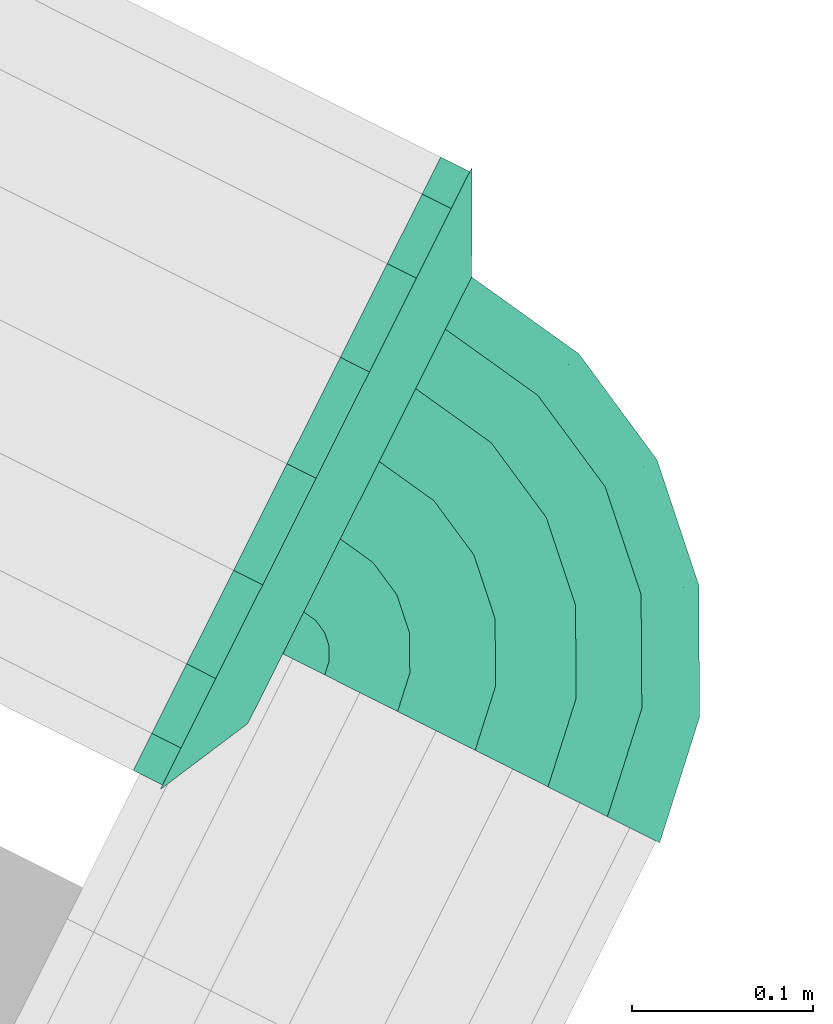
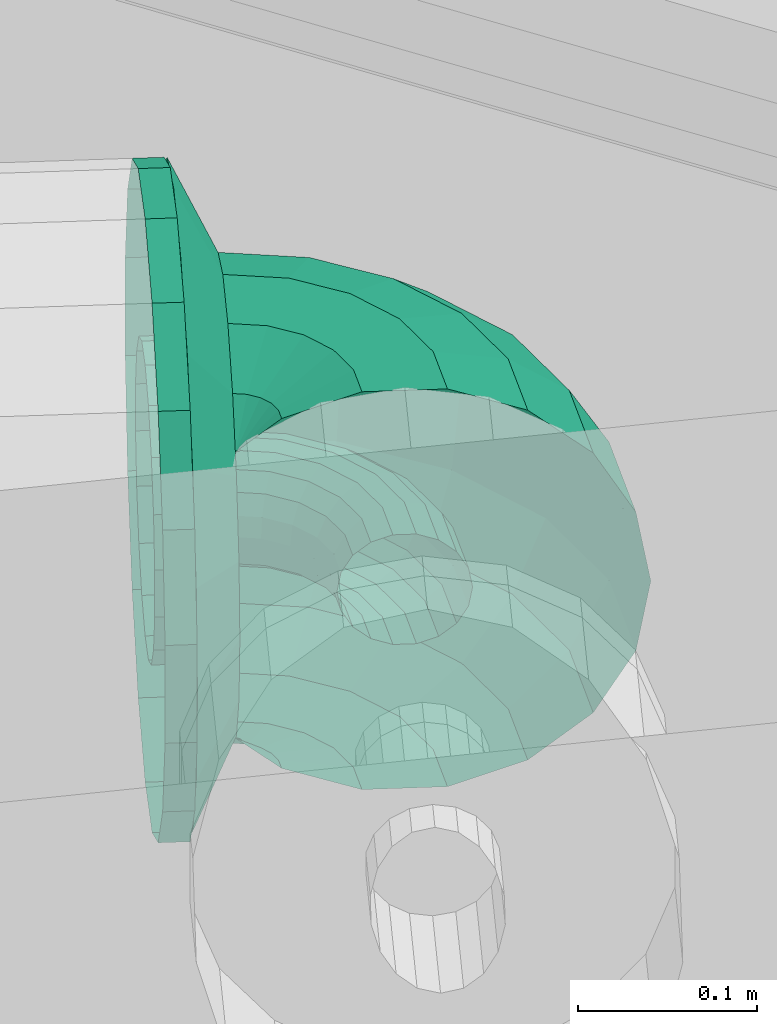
# One storey, part 158 of 206: 1 flow fitting, 1 flow segment.
"""IFC2X3 building model written with IfcOpenShell, lengths in metres."""

from ifc_helpers import new_model, si_unit, derived_unit, direction, frame, origin, place, context, subcontext, project, spatial, face_set, surface_model, source, transform, mapped, material, type_object, type_shapes, element, save


model = new_model("IFC2X3")

# Units and contexts
model_context = context("Model", 3, precision=5.2338327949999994e-05, world=origin(), true_north=direction((0.0, 1.0)))
body_context = subcontext(model_context, "Body", "Model", "MODEL_VIEW")
ifc_project = project(units=[si_unit("LENGTHUNIT", "METRE"), si_unit("AREAUNIT", "SQUARE_METRE"), si_unit("VOLUMEUNIT", "CUBIC_METRE"), si_unit("MASSUNIT", "GRAM", prefix="KILO"), si_unit("PLANEANGLEUNIT", "RADIAN"), derived_unit("THERMALTRANSMITTANCEUNIT", [(si_unit("MASSUNIT", "GRAM", prefix="KILO"), 1), (si_unit("THERMODYNAMICTEMPERATUREUNIT", "KELVIN"), -1), (si_unit("TIMEUNIT", "SECOND"), -3)])], contexts=[model_context])

# Site, building, storey
site_placement = place(None, frame((0.0, 0.0, 0.0), z_axis=(0.0, 0.0, 1.0), x_axis=(0.8939966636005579, -0.4480736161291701, 0.0)))
site = spatial("IfcSite", under=ifc_project, at=site_placement, Name="Default", CompositionType="ELEMENT")
building_placement = place(site_placement, origin())
building = spatial("IfcBuilding", under=site, at=building_placement, CompositionType="ELEMENT")
storey_placement = place(building_placement, origin())
storey = spatial("IfcBuildingStorey", under=building, at=storey_placement, Name="Erdgeschoss", CompositionType="ELEMENT", Elevation=0.0)

# Flow fitting
ifc_material = material(Name="IfcSurfaceStyle #1741")
distribution_element_type_1 = type_object("IfcDistributionElementType", Name="Flansch 334842:Flansch 334842", material=ifc_material)
shared_shape_1 = source(origin(), body_context, "Body", "SurfaceModel", [
    surface_model("IfcFaceBasedSurfaceModel", [(29.865127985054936, 10.441258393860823, 2.314000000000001), (29.865127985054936, 10.438963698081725, 2.300986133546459), (29.838127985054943, 10.44549456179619, 2.2986090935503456), (29.838127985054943, 10.448208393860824, 2.3139999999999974), (29.865127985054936, 10.432356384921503, 2.2895419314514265), (29.83812798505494, 10.437680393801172, 2.2850745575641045), (29.865127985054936, 10.422233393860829, 2.281047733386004), (29.838127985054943, 10.425708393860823, 2.2750288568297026), (29.865127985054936, 10.409815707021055, 2.276528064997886), (29.83812798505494, 10.41102256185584, 2.2696836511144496), (29.86512798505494, 10.396601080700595, 2.2765280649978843), (29.838127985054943, 10.395394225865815, 2.2696836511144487), (29.86512798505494, 10.384183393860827, 2.2810477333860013), (29.83812798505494, 10.380708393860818, 2.2750288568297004), (29.865127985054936, 10.374060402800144, 2.2895419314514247), (29.83812798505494, 10.368736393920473, 2.285074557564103), (29.86512798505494, 10.367453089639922, 2.300986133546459), (29.83812798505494, 10.360922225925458, 2.298609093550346), (29.865127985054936, 10.365158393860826, 2.314), (29.83812798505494, 10.35820839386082, 2.314), (29.86512798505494, 10.36745308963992, 2.327013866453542), (29.83812798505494, 10.360922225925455, 2.329390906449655), (29.86512798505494, 10.37406040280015, 2.338458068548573), (29.838127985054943, 10.368736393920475, 2.342925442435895), (29.865127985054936, 10.384183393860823, 2.3469522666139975), (29.83812798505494, 10.380708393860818, 2.352971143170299), (29.865127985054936, 10.396601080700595, 2.351471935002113), (29.838127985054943, 10.395394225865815, 2.358316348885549), (29.865127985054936, 10.409815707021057, 2.3514719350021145), (29.838127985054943, 10.41102256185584, 2.3583163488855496), (29.865127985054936, 10.422233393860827, 2.3469522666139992), (29.838127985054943, 10.425708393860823, 2.3529711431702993), (29.86512798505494, 10.4323563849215, 2.3384580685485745), (29.838127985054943, 10.437680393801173, 2.3429254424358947), (29.865127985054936, 10.438963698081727, 2.327013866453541), (29.838127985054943, 10.445494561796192, 2.3293909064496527), (29.83812798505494, 10.403208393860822, 2.2215), (29.83812798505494, 10.3715715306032, 2.2270784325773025), (29.820127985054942, 10.3715715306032, 2.2270784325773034), (29.82012798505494, 10.403208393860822, 2.2215000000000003), (29.838127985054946, 10.343750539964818, 2.2431408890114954), (29.820127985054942, 10.343750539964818, 2.243140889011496), (29.83812798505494, 10.323101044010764, 2.267749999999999), (29.820127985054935, 10.323101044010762, 2.2677499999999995), (29.838127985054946, 10.312113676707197, 2.2979375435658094), (29.820127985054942, 10.312113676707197, 2.29793754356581), (29.838127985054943, 10.312113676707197, 2.3300624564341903), (29.820127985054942, 10.312113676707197, 2.330062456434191), (29.838127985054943, 10.32310104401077, 2.3602499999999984), (29.820127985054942, 10.323101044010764, 2.3602499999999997), (29.838127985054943, 10.343750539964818, 2.3848591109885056), (29.820127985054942, 10.343750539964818, 2.3848591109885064), (29.838127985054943, 10.3715715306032, 2.4009215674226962), (29.82012798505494, 10.371571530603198, 2.4009215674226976), (29.838127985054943, 10.403208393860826, 2.4064999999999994), (29.82012798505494, 10.403208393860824, 2.4065000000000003), (29.838127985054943, 10.434845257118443, 2.4009215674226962), (29.82012798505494, 10.434845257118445, 2.4009215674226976), (29.838127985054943, 10.462666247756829, 2.3848591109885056), (29.820127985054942, 10.462666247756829, 2.3848591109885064), (29.83812798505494, 10.48331574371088, 2.360249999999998), (29.820127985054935, 10.483315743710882, 2.360249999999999), (29.838127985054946, 10.494303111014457, 2.330062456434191), (29.820127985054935, 10.494303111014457, 2.3300624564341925), (29.83812798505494, 10.494303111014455, 2.2979375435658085), (29.820127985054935, 10.494303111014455, 2.2979375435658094), (29.83812798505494, 10.48331574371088, 2.26775), (29.82012798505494, 10.48331574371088, 2.2677500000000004), (29.83812798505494, 10.462666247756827, 2.243140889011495), (29.82012798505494, 10.462666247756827, 2.243140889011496), (29.83812798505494, 10.434845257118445, 2.2270784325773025), (29.82012798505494, 10.434845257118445, 2.2270784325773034), (29.838127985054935, 10.403208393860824, 2.3139999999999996), (29.865127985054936, 10.54125839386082, 2.314000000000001), (29.865127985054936, 10.532932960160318, 2.2667841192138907), (29.838127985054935, 10.584099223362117, 2.248161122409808), (29.838127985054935, 10.595708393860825, 2.3139999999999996), (29.865127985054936, 10.508960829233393, 2.2252631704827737), (29.83812798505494, 10.550671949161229, 2.1902633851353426), (29.865127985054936, 10.472233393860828, 2.194445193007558), (29.838127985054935, 10.499458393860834, 2.1472901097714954), (29.865127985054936, 10.427180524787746, 2.178047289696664), (29.838127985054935, 10.436635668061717, 2.1244245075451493), (29.865127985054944, 10.379236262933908, 2.1780472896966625), (29.838127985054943, 10.369781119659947, 2.1244245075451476), (29.86512798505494, 10.334183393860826, 2.1944451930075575), (29.83812798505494, 10.306958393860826, 2.147290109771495), (29.865127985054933, 10.297455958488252, 2.2252631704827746), (29.83812798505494, 10.25574483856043, 2.1902633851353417), (29.865127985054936, 10.273483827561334, 2.266784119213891), (29.838127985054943, 10.222317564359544, 2.248161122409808), (29.865127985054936, 10.265158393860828, 2.314), (29.838127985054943, 10.21070839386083, 2.313999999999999), (29.865127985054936, 10.273483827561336, 2.3612158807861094), (29.838127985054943, 10.222317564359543, 2.379838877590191), (29.865127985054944, 10.297455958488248, 2.402736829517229), (29.838127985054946, 10.25574483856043, 2.4377366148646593), (29.86512798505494, 10.334183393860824, 2.433554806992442), (29.838127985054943, 10.306958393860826, 2.4807098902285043), (29.865127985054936, 10.379236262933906, 2.449952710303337), (29.83812798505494, 10.369781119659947, 2.503575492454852), (29.865127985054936, 10.42718052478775, 2.4499527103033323), (29.83812798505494, 10.436635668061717, 2.5035754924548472), (29.865127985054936, 10.472233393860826, 2.433554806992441), (29.83812798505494, 10.499458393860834, 2.480709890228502), (29.865127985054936, 10.508960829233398, 2.4027368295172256), (29.83812798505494, 10.55067194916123, 2.4377366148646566), (29.865127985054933, 10.532932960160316, 2.3612158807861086), (29.838127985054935, 10.584099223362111, 2.3798388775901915), (29.83812798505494, 10.403208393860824, 2.1215), (29.838127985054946, 10.337369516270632, 2.133109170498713), (29.820127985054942, 10.337369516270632, 2.1331091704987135), (29.820127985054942, 10.403208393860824, 2.1215000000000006), (29.83812798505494, 10.27947177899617, 2.166536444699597), (29.820127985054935, 10.27947177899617, 2.166536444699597), (29.838127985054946, 10.236498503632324, 2.2177499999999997), (29.820127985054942, 10.236498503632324, 2.21775), (29.838127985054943, 10.213632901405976, 2.2805727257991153), (29.820127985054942, 10.213632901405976, 2.280572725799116), (29.838127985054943, 10.213632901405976, 2.347427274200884), (29.820127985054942, 10.213632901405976, 2.3474272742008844), (29.838127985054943, 10.236498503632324, 2.410249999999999), (29.820127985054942, 10.236498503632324, 2.410249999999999), (29.838127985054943, 10.27947177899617, 2.4614635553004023), (29.820127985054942, 10.27947177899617, 2.4614635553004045), (29.838127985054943, 10.337369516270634, 2.4948908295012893), (29.820127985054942, 10.337369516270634, 2.4948908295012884), (29.838127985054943, 10.403208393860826, 2.5065), (29.820127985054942, 10.403208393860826, 2.5065), (29.838127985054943, 10.469047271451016, 2.494890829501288), (29.82012798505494, 10.469047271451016, 2.494890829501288), (29.83812798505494, 10.526945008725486, 2.4614635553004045), (29.820127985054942, 10.526945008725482, 2.461463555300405), (29.83812798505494, 10.56991828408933, 2.4102500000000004), (29.82012798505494, 10.56991828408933, 2.4102500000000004), (29.83812798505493, 10.592783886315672, 2.347427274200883), (29.820127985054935, 10.592783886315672, 2.3474272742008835), (29.838127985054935, 10.592783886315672, 2.2805727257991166), (29.820127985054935, 10.592783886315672, 2.2805727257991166), (29.838127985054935, 10.569918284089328, 2.21775), (29.82012798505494, 10.569918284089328, 2.2177500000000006), (29.838127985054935, 10.526945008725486, 2.166536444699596), (29.820127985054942, 10.526945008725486, 2.166536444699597), (29.838127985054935, 10.469047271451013, 2.1331091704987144), (29.82012798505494, 10.469047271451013, 2.1331091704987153)], [face_set([[[0, 1, 2, 3]], [[1, 4, 5, 2]], [[4, 6, 7, 5]], [[6, 8, 9, 7]], [[8, 10, 11, 9]], [[10, 12, 13, 11]], [[12, 14, 15, 13]], [[14, 16, 17, 15]], [[16, 18, 19, 17]], [[18, 20, 21, 19]], [[20, 22, 23, 21]], [[22, 24, 25, 23]], [[24, 26, 27, 25]], [[26, 28, 29, 27]], [[28, 30, 31, 29]], [[30, 32, 33, 31]], [[32, 34, 35, 33]], [[34, 0, 3, 35]], [[36, 37, 38, 39]], [[37, 40, 41, 38]], [[40, 42, 43, 41]], [[42, 44, 45, 43]], [[44, 46, 47, 45]], [[46, 48, 49, 47]], [[48, 50, 51, 49]], [[50, 52, 53, 51]], [[52, 54, 55, 53]], [[54, 56, 57, 55]], [[56, 58, 59, 57]], [[58, 60, 61, 59]], [[60, 62, 63, 61]], [[62, 64, 65, 63]], [[64, 66, 67, 65]], [[66, 68, 69, 67]], [[68, 70, 71, 69]], [[70, 36, 39, 71]], [[72, 37, 36]], [[72, 40, 37]], [[72, 42, 40]], [[72, 44, 42]], [[72, 46, 44]], [[72, 48, 46]], [[72, 50, 48]], [[72, 52, 50]], [[72, 54, 52]], [[72, 56, 54]], [[72, 58, 56]], [[72, 60, 58]], [[72, 62, 60]], [[72, 64, 62]], [[72, 66, 64]], [[72, 68, 66]], [[72, 70, 68]], [[72, 36, 70]], [[73, 74, 75, 76]], [[74, 77, 78, 75]], [[77, 79, 80, 78]], [[79, 81, 82, 80]], [[81, 83, 84, 82]], [[83, 85, 86, 84]], [[85, 87, 88, 86]], [[87, 89, 90, 88]], [[89, 91, 92, 90]], [[91, 93, 94, 92]], [[93, 95, 96, 94]], [[95, 97, 98, 96]], [[97, 99, 100, 98]], [[99, 101, 102, 100]], [[101, 103, 104, 102]], [[103, 105, 106, 104]], [[105, 107, 108, 106]], [[107, 73, 76, 108]], [[109, 110, 111, 112]], [[110, 113, 114, 111]], [[113, 115, 116, 114]], [[115, 117, 118, 116]], [[117, 119, 120, 118]], [[119, 121, 122, 120]], [[121, 123, 124, 122]], [[123, 125, 126, 124]], [[125, 127, 128, 126]], [[127, 129, 130, 128]], [[129, 131, 132, 130]], [[131, 133, 134, 132]], [[133, 135, 136, 134]], [[135, 137, 138, 136]], [[137, 139, 140, 138]], [[139, 141, 142, 140]], [[141, 143, 144, 142]], [[143, 109, 112, 144]]])]),
])
type_shapes(distribution_element_type_1, [shared_shape_1])
flow_fitting_placement = place(storey_placement, origin())
element("IfcFlowFitting", 1, at=flow_fitting_placement, inside=storey, type_object=distribution_element_type_1, material=ifc_material, Name="Flansch", ObjectType="Flansch", context=body_context, shape_type="MappedRepresentation", body=[
    mapped(shared_shape_1, transform((0.0, 0.0, 0.0), scale=1.0)),
])

# Flow segment
distribution_element_type_2 = type_object("IfcDistributionElementType", Name="Rohrbogen 347619:Rohrbogen 347619", material=ifc_material)
shared_shape_2 = source(origin(), body_context, "Body", "SurfaceModel", [
    surface_model("IfcFaceBasedSurfaceModel", [(29.906241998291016, 10.434746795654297, 2.314000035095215), (29.86512822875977, 10.441258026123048, 2.314000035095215), (29.905532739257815, 10.43256437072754, 2.3270139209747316), (29.86512822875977, 10.438963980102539, 2.3270139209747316), (29.94333275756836, 10.415847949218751, 2.314000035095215), (29.941984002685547, 10.41399108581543, 2.3270139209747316), (29.972768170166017, 10.386413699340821, 2.314000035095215), (29.97091014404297, 10.385064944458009, 2.3270139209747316), (29.991667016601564, 10.349322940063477, 2.314000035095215), (29.98948342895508, 10.348613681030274, 2.3270139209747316), (29.998178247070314, 10.308208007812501, 2.314000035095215), (29.99588303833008, 10.308208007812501, 2.3270139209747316), (29.86512822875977, 10.432356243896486, 2.3384581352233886), (29.90349100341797, 10.42627987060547, 2.3384581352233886), (29.93810051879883, 10.408646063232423, 2.3384581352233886), (29.96556628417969, 10.381180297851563, 2.3384581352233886), (29.983200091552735, 10.34657194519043, 2.3384581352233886), (29.98927646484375, 10.308208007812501, 2.3384581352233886), (29.86512822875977, 10.422233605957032, 2.3469522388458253), (29.900363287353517, 10.416652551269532, 2.3469522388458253), (29.932149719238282, 10.400457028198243, 2.3469522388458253), (29.957376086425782, 10.375230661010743, 2.3469522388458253), (29.973572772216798, 10.343444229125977, 2.3469522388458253), (29.979153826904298, 10.308208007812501, 2.3469522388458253), (29.89652631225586, 10.404842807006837, 2.3514718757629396), (29.86512822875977, 10.409815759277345, 2.3514718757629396), (29.924850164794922, 10.390409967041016, 2.3514718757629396), (29.947330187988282, 10.367931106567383, 2.3514718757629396), (29.961761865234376, 10.339607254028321, 2.3514718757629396), (29.966735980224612, 10.308208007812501, 2.3514718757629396), (29.86512822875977, 10.396601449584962, 2.3514718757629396), (29.892442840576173, 10.392274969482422, 2.3514718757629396), (29.917083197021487, 10.379719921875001, 2.3514718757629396), (29.936640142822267, 10.360164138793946, 2.3514718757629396), (29.949195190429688, 10.335523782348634, 2.3514718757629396), (29.953520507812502, 10.308208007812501, 2.3514718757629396), (29.86512822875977, 10.384183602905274, 2.3469522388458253), (29.888605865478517, 10.380465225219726, 2.3469522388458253), (29.90978596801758, 10.3696740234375, 2.3469522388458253), (29.926591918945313, 10.352865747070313, 2.3469522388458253), (29.937384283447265, 10.33168564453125, 2.3469522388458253), (29.941102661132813, 10.308208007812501, 2.3469522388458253), (29.86512822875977, 10.374060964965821, 2.3384581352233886), (29.885478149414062, 10.37083790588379, 2.3384581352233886), (29.903835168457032, 10.361483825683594, 2.3384581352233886), (29.91840404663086, 10.346914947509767, 2.3384581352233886), (29.927756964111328, 10.328557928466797, 2.3384581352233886), (29.93098002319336, 10.308208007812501, 2.3384581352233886), (29.88343641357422, 10.36455340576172, 2.3270139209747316), (29.86512822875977, 10.367453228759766, 2.3270139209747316), (29.899951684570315, 10.356138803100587, 2.3270139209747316), (29.913057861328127, 10.343031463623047, 2.3270139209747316), (29.921473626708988, 10.326516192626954, 2.3270139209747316), (29.924373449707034, 10.308208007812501, 2.3270139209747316), (29.86512822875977, 10.365158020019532, 2.314000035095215), (29.882727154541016, 10.362370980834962, 2.314000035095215), (29.898602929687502, 10.354281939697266, 2.314000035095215), (29.91120216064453, 10.341682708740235, 2.314000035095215), (29.919290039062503, 10.32580693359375, 2.314000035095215), (29.922078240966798, 10.308208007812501, 2.314000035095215), (29.88343641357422, 10.36455340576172, 2.3009861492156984), (29.86512822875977, 10.367453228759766, 2.3009861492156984), (29.899951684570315, 10.356138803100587, 2.3009861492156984), (29.913057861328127, 10.343031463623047, 2.3009861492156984), (29.921473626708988, 10.326516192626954, 2.3009861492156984), (29.924373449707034, 10.308208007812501, 2.3009861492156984), (29.885478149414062, 10.37083790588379, 2.289541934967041), (29.86512822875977, 10.374060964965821, 2.289541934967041), (29.903835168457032, 10.361483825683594, 2.289541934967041), (29.91840404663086, 10.346914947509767, 2.289541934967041), (29.927756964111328, 10.328557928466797, 2.289541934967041), (29.93098002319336, 10.308208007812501, 2.289541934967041), (29.86512822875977, 10.384183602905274, 2.281047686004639), (29.888605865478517, 10.380465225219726, 2.281047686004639), (29.90978596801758, 10.3696740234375, 2.281047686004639), (29.926591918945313, 10.352865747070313, 2.281047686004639), (29.937384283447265, 10.33168564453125, 2.281047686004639), (29.941102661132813, 10.308208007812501, 2.281047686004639), (29.86512822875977, 10.396601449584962, 2.2765280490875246), (29.892442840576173, 10.392274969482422, 2.2765280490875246), (29.917083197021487, 10.379719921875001, 2.2765280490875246), (29.936640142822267, 10.360164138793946, 2.2765280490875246), (29.949195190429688, 10.335523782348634, 2.2765280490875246), (29.953520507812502, 10.308208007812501, 2.2765280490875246), (29.89652631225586, 10.404842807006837, 2.2765280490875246), (29.86512822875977, 10.409815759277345, 2.2765280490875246), (29.924850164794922, 10.390409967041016, 2.2765280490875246), (29.947330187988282, 10.367931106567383, 2.2765280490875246), (29.961761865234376, 10.339607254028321, 2.2765280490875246), (29.966735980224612, 10.308208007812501, 2.2765280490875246), (29.900363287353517, 10.416652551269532, 2.281047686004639), (29.86512822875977, 10.422233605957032, 2.281047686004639), (29.932149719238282, 10.400457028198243, 2.281047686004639), (29.957376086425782, 10.375230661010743, 2.281047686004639), (29.973572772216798, 10.343444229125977, 2.281047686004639), (29.979153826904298, 10.308208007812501, 2.281047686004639), (29.90349100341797, 10.42627987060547, 2.289541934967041), (29.86512822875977, 10.432356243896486, 2.289541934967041), (29.93810051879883, 10.408646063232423, 2.289541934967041), (29.96556628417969, 10.381180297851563, 2.289541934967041), (29.983200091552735, 10.34657194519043, 2.289541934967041), (29.98927646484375, 10.308208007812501, 2.289541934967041), (29.86512822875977, 10.438963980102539, 2.3009861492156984), (29.905532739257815, 10.43256437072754, 2.3009861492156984), (29.941984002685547, 10.41399108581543, 2.3009861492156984), (29.97091014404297, 10.385064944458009, 2.3009861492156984), (29.98948342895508, 10.348613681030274, 2.3009861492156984), (29.99588303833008, 10.308208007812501, 2.3009861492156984), (29.937144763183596, 10.529852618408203, 2.314000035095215), (29.86512822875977, 10.541258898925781, 2.314000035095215), (29.86512822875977, 10.532932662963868, 2.3612159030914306), (29.93457282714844, 10.521934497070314, 2.3612159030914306), (30.00211056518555, 10.496749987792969, 2.314000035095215), (29.997217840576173, 10.490014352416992, 2.3612159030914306), (30.053670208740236, 10.445191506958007, 2.314000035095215), (30.046933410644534, 10.440297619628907, 2.3612159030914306), (30.08677283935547, 10.380224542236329, 2.314000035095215), (30.07885471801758, 10.377652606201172, 2.3612159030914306), (30.09817911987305, 10.308208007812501, 2.314000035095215), (30.08985172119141, 10.308208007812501, 2.3612159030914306), (29.927163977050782, 10.49913472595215, 2.4027367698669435), (29.86512822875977, 10.508960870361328, 2.4027367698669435), (29.98312800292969, 10.47062018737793, 2.4027367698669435), (30.02753924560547, 10.426207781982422, 2.4027367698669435), (30.05605378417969, 10.370243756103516, 2.4027367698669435), (30.065881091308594, 10.308208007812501, 2.4027367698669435), (29.86512822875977, 10.472232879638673, 2.433554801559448), (29.91581350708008, 10.464205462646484, 2.433554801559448), (29.961538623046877, 10.440906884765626, 2.433554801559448), (29.997827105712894, 10.404619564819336, 2.433554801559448), (30.021125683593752, 10.35889444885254, 2.433554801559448), (30.02915310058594, 10.308208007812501, 2.433554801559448), (29.901893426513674, 10.42135807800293, 2.449952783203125), (29.86512822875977, 10.427180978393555, 2.449952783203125), (29.935058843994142, 10.40445910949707, 2.449952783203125), (29.96137816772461, 10.378138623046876, 2.449952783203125), (29.97827713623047, 10.344973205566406, 2.449952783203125), (29.984100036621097, 10.308208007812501, 2.449952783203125), (29.86512822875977, 10.37923623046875, 2.449952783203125), (29.88707572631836, 10.375759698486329, 2.449952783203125), (29.90687684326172, 10.365670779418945, 2.449952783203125), (29.922589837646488, 10.34995778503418, 2.449952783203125), (29.932679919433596, 10.33015666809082, 2.449952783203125), (29.936156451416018, 10.308208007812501, 2.449952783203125), (29.86512822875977, 10.334183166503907, 2.433554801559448), (29.873155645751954, 10.332912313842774, 2.433554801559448), (29.88039473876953, 10.329223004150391, 2.433554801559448), (29.88614322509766, 10.323475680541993, 2.433554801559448), (29.889831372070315, 10.316235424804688, 2.433554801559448), (29.891103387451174, 10.308208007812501, 2.433554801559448), (29.86512822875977, 10.308208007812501, 2.411759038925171), (29.86756296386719, 10.308208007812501, 2.412082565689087), (29.86512822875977, 10.308208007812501, 2.216241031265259), (29.86756296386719, 10.308208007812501, 2.215917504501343), (29.873155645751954, 10.332912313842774, 2.1944451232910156), (29.86512822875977, 10.334183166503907, 2.1944451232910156), (29.88039473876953, 10.329223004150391, 2.1944451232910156), (29.88614322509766, 10.323475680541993, 2.1944451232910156), (29.889831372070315, 10.316235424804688, 2.1944451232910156), (29.891103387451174, 10.308208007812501, 2.1944451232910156), (29.88707572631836, 10.375759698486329, 2.178047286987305), (29.86512822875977, 10.37923623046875, 2.178047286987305), (29.90687684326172, 10.365670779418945, 2.178047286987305), (29.922589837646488, 10.34995778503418, 2.178047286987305), (29.932679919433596, 10.33015666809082, 2.178047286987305), (29.936156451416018, 10.308208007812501, 2.178047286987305), (29.901893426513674, 10.42135807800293, 2.178047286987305), (29.86512822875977, 10.427180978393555, 2.178047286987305), (29.935058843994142, 10.40445910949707, 2.178047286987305), (29.96137816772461, 10.378138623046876, 2.178047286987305), (29.97827713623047, 10.344973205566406, 2.178047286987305), (29.984100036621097, 10.308208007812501, 2.178047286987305), (29.91581350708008, 10.464205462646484, 2.1944451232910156), (29.86512822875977, 10.472232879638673, 2.1944451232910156), (29.961538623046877, 10.440906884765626, 2.1944451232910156), (29.997827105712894, 10.404619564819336, 2.1944451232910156), (30.021125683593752, 10.35889444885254, 2.1944451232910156), (30.02915310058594, 10.308208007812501, 2.1944451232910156), (29.927163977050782, 10.49913472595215, 2.2252631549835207), (29.86512822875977, 10.508960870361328, 2.2252631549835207), (29.98312800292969, 10.47062018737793, 2.2252631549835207), (30.02753924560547, 10.426207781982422, 2.2252631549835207), (30.05605378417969, 10.370243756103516, 2.2252631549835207), (30.065881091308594, 10.308208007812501, 2.2252631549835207), (29.93457282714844, 10.521934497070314, 2.266784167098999), (29.86512822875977, 10.532932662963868, 2.266784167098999), (29.997217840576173, 10.490014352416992, 2.266784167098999), (30.046933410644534, 10.440297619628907, 2.266784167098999), (30.07885471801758, 10.377652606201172, 2.266784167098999), (30.08985172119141, 10.308208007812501, 2.266784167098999)], [face_set([[[0, 1, 2]], [[3, 2, 1]], [[4, 0, 5]], [[2, 5, 0]], [[6, 4, 5]], [[5, 7, 6]], [[8, 6, 7]], [[7, 9, 8]], [[10, 8, 9]], [[9, 11, 10]], [[2, 3, 12]], [[12, 13, 2]], [[5, 2, 13]], [[13, 14, 5]], [[7, 5, 14]], [[14, 15, 7]], [[9, 7, 16]], [[15, 16, 7]], [[11, 9, 17]], [[16, 17, 9]], [[13, 12, 18]], [[18, 19, 13]], [[14, 13, 20]], [[19, 20, 13]], [[15, 14, 21]], [[20, 21, 14]], [[16, 15, 21]], [[21, 22, 16]], [[17, 16, 22]], [[22, 23, 17]], [[19, 18, 24]], [[25, 24, 18]], [[20, 19, 26]], [[24, 26, 19]], [[21, 20, 27]], [[26, 27, 20]], [[22, 21, 28]], [[27, 28, 21]], [[23, 22, 29]], [[28, 29, 22]], [[24, 25, 30]], [[30, 31, 24]], [[26, 24, 31]], [[31, 32, 26]], [[27, 26, 32]], [[32, 33, 27]], [[28, 27, 34]], [[33, 34, 27]], [[29, 28, 35]], [[34, 35, 28]], [[31, 30, 36]], [[36, 37, 31]], [[32, 31, 37]], [[37, 38, 32]], [[33, 32, 38]], [[38, 39, 33]], [[34, 33, 40]], [[39, 40, 33]], [[35, 34, 41]], [[40, 41, 34]], [[37, 36, 42]], [[42, 43, 37]], [[38, 37, 44]], [[43, 44, 37]], [[39, 38, 45]], [[44, 45, 38]], [[40, 39, 45]], [[45, 46, 40]], [[41, 40, 46]], [[46, 47, 41]], [[43, 42, 48]], [[49, 48, 42]], [[44, 43, 48]], [[48, 50, 44]], [[45, 44, 50]], [[50, 51, 45]], [[46, 45, 52]], [[51, 52, 45]], [[47, 46, 53]], [[52, 53, 46]], [[48, 49, 54]], [[54, 55, 48]], [[50, 48, 56]], [[55, 56, 48]], [[51, 50, 56]], [[56, 57, 51]], [[52, 51, 57]], [[57, 58, 52]], [[53, 52, 58]], [[58, 59, 53]], [[55, 54, 60]], [[61, 60, 54]], [[56, 55, 62]], [[60, 62, 55]], [[57, 56, 63]], [[62, 63, 56]], [[58, 57, 64]], [[63, 64, 57]], [[59, 58, 64]], [[64, 65, 59]], [[60, 61, 66]], [[67, 66, 61]], [[62, 60, 66]], [[66, 68, 62]], [[63, 62, 69]], [[68, 69, 62]], [[64, 63, 70]], [[69, 70, 63]], [[65, 64, 70]], [[70, 71, 65]], [[66, 67, 72]], [[72, 73, 66]], [[68, 66, 73]], [[73, 74, 68]], [[69, 68, 75]], [[74, 75, 68]], [[70, 69, 76]], [[75, 76, 69]], [[71, 70, 77]], [[76, 77, 70]], [[73, 72, 78]], [[78, 79, 73]], [[74, 73, 80]], [[79, 80, 73]], [[75, 74, 81]], [[80, 81, 74]], [[76, 75, 81]], [[81, 82, 76]], [[77, 76, 82]], [[82, 83, 77]], [[79, 78, 84]], [[85, 84, 78]], [[80, 79, 86]], [[84, 86, 79]], [[81, 80, 87]], [[86, 87, 80]], [[82, 81, 88]], [[87, 88, 81]], [[83, 82, 89]], [[88, 89, 82]], [[84, 85, 90]], [[91, 90, 85]], [[86, 84, 90]], [[90, 92, 86]], [[87, 86, 92]], [[92, 93, 87]], [[88, 87, 93]], [[93, 94, 88]], [[89, 88, 94]], [[94, 95, 89]], [[90, 91, 96]], [[97, 96, 91]], [[92, 90, 98]], [[96, 98, 90]], [[93, 92, 98]], [[98, 99, 93]], [[94, 93, 100]], [[99, 100, 93]], [[95, 94, 101]], [[100, 101, 94]], [[96, 97, 102]], [[102, 103, 96]], [[98, 96, 103]], [[103, 104, 98]], [[99, 98, 104]], [[104, 105, 99]], [[100, 99, 105]], [[105, 106, 100]], [[101, 100, 106]], [[106, 107, 101]], [[103, 102, 0]], [[1, 0, 102]], [[104, 103, 4]], [[0, 4, 103]], [[105, 104, 6]], [[4, 6, 104]], [[106, 105, 8]], [[6, 8, 105]], [[107, 106, 10]], [[8, 10, 106]], [[108, 109, 110]], [[110, 111, 108]], [[112, 108, 111]], [[111, 113, 112]], [[114, 112, 115]], [[113, 115, 112]], [[116, 114, 117]], [[115, 117, 114]], [[118, 116, 119]], [[117, 119, 116]], [[111, 110, 120]], [[121, 120, 110]], [[113, 111, 122]], [[120, 122, 111]], [[115, 113, 122]], [[122, 123, 115]], [[117, 115, 123]], [[123, 124, 117]], [[119, 117, 125]], [[124, 125, 117]], [[120, 121, 126]], [[126, 127, 120]], [[122, 120, 127]], [[127, 128, 122]], [[123, 122, 128]], [[128, 129, 123]], [[124, 123, 130]], [[129, 130, 123]], [[125, 124, 131]], [[130, 131, 124]], [[127, 126, 132]], [[133, 132, 126]], [[128, 127, 134]], [[132, 134, 127]], [[129, 128, 134]], [[134, 135, 129]], [[130, 129, 136]], [[135, 136, 129]], [[131, 130, 137]], [[136, 137, 130]], [[132, 133, 138]], [[138, 139, 132]], [[134, 132, 139]], [[139, 140, 134]], [[135, 134, 141]], [[140, 141, 134]], [[136, 135, 142]], [[141, 142, 135]], [[137, 136, 142]], [[142, 143, 137]], [[139, 138, 144]], [[144, 145, 139]], [[140, 139, 145]], [[145, 146, 140]], [[141, 140, 147]], [[146, 147, 140]], [[142, 141, 147]], [[147, 148, 142]], [[143, 142, 149]], [[148, 149, 142]], [[150, 145, 151]], [[150, 151, 144]], [[145, 144, 151]], [[146, 145, 150]], [[147, 146, 150]], [[148, 147, 150]], [[149, 148, 150]], [[152, 153, 154]], [[155, 154, 153]], [[153, 152, 155]], [[154, 156, 152]], [[152, 156, 157]], [[157, 158, 152]], [[158, 159, 152]], [[154, 155, 160]], [[161, 160, 155]], [[156, 154, 162]], [[160, 162, 154]], [[157, 156, 162]], [[162, 163, 157]], [[158, 157, 164]], [[163, 164, 157]], [[159, 158, 165]], [[164, 165, 158]], [[160, 161, 166]], [[167, 166, 161]], [[162, 160, 168]], [[166, 168, 160]], [[163, 162, 169]], [[168, 169, 162]], [[164, 163, 169]], [[169, 170, 164]], [[165, 164, 171]], [[170, 171, 164]], [[166, 167, 172]], [[173, 172, 167]], [[168, 166, 172]], [[172, 174, 168]], [[169, 168, 174]], [[174, 175, 169]], [[170, 169, 175]], [[175, 176, 170]], [[171, 170, 176]], [[176, 177, 171]], [[172, 173, 178]], [[179, 178, 173]], [[174, 172, 180]], [[178, 180, 172]], [[175, 174, 181]], [[180, 181, 174]], [[176, 175, 181]], [[181, 182, 176]], [[177, 176, 183]], [[182, 183, 176]], [[178, 179, 184]], [[185, 184, 179]], [[180, 178, 186]], [[184, 186, 178]], [[181, 180, 187]], [[186, 187, 180]], [[182, 181, 187]], [[187, 188, 182]], [[183, 182, 189]], [[188, 189, 182]], [[184, 185, 108]], [[109, 108, 185]], [[186, 184, 108]], [[108, 112, 186]], [[187, 186, 112]], [[112, 114, 187]], [[188, 187, 114]], [[114, 116, 188]], [[189, 188, 116]], [[116, 118, 189]]])]),
])
type_shapes(distribution_element_type_2, [shared_shape_2])
flow_segment_placement = place(storey_placement, origin())
element("IfcFlowSegment", 2, at=flow_segment_placement, inside=storey, type_object=distribution_element_type_2, material=ifc_material, Name="Rohrbogen", ObjectType="Rohrbogen", context=body_context, shape_type="MappedRepresentation", body=[
    mapped(shared_shape_2, transform((0.0, 0.0, 0.0), scale=1.0)),
])

save(model, "model.ifc")
